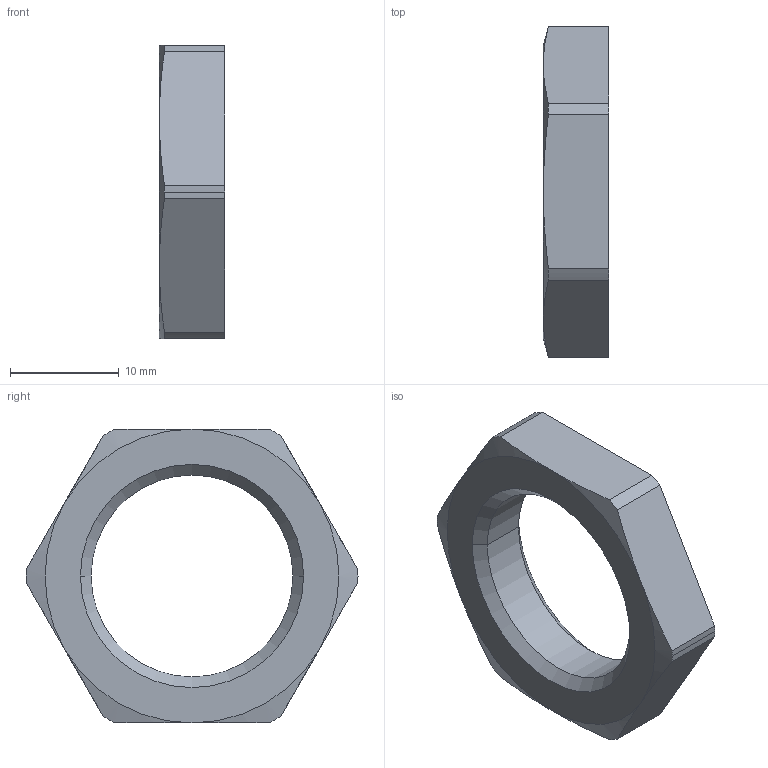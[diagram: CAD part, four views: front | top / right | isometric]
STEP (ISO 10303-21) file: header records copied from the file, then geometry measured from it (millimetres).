
FILE_DESCRIPTION((''),'2;1');
FILE_NAME('108708.0.stp','2007-11-06T08:53:00',(''),(''),'AutoCAD STEP 2000i','AutoCAD 2000i',', , ');
FILE_SCHEMA(('CONFIG_CONTROL_DESIGN'));
Length unit declared in the file: millimetre
Products named in the file (2): 108708.0; CHIAVE SMUSSX1036#0
Assembly tree (1 placements, depth 2):
  108708.0
    CHIAVE SMUSSX1036#0
Bounding box: 6 x 30.5 x 27 mm (x, y, z)
Volume: 2092.5 mm3; surface area: 1544.7 mm2
Topology: 1 solids, 1 shells, 28 faces, 68 edges, 42 vertices
Faces by surface type: cylinder 10, cone 10, plane 8
Entity records: 923 total; most frequent: CARTESIAN_POINT 164, DIRECTION 146, ORIENTED_EDGE 136, EDGE_CURVE 68, AXIS2_PLACEMENT_3D 60, VERTEX_POINT 42, CIRCLE 30, EDGE_LOOP 30
